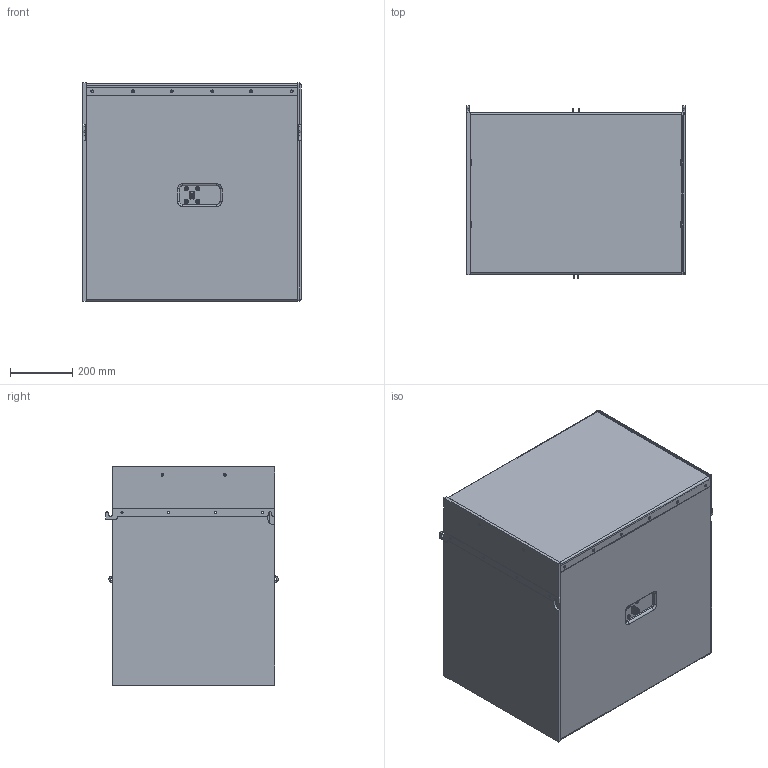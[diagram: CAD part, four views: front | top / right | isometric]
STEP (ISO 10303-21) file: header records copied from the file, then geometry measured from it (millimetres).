
FILE_DESCRIPTION (( 'STEP AP203' ), '1' );
FILE_NAME ('C-Sub-3D.STEP', '2024-09-18T10:58:33', ( '' ), ( '' ), 'SwSTEP 2.0', 'SolidWorks 2009', '' );
FILE_SCHEMA (( 'CONFIG_CONTROL_DESIGN' ));
Length unit declared in the file: millimetre
Products named in the file (1): C-Sub-3D
Bounding box: 700 x 554.5 x 700 mm (x, y, z)
Surface area: 2606308.1 mm2 (no closed solid volume)
Topology: 0 solids, 24 shells, 290 faces, 1027 edges, 749 vertices
Faces by surface type: cylinder 116, plane 110, bspline 52, torus 8, sphere 4
Entity records: 11344 total; most frequent: CARTESIAN_POINT 2423, DIRECTION 1903, ORIENTED_EDGE 1593, EDGE_CURVE 1019, VERTEX_POINT 749, AXIS2_PLACEMENT_3D 645, LINE 613, VECTOR 613
